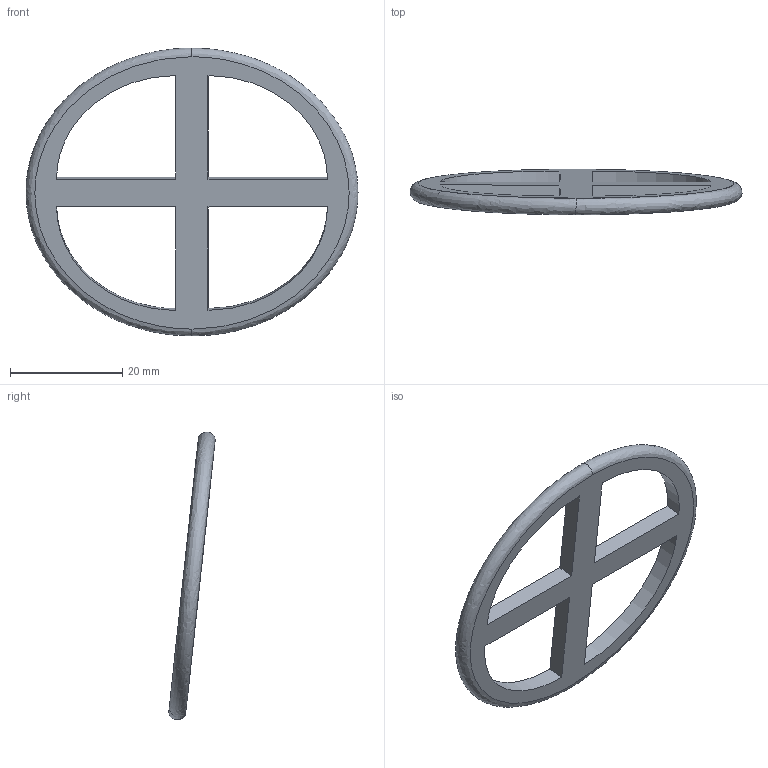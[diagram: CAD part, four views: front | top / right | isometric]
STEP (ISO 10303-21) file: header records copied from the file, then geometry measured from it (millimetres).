
FILE_DESCRIPTION(/* description */ (''),/* implementation_level */ '2;1');
FILE_NAME(/* name */ 'XS-NAR~3',/* time_stamp */ '2020-04-10T21:55:24+03:00',/* author */ (''),/* organization */ (''),/* preprocessor_version */ 'ST-DEVELOPER v16.5',/* originating_system */ '',/* authorisation */ '');
FILE_SCHEMA (('AUTOMOTIVE_DESIGN { 1 0 10303 214 3 1 1 }'));
Length unit declared in the file: millimetre
Products named in the file (1): Document
Bounding box: 59.15 x 8.23 x 51.3 mm (x, y, z)
Volume: 3307.3 mm3; surface area: 3465.5 mm2
Topology: 1 solids, 1 shells, 18 faces, 46 edges, 30 vertices
Faces by surface type: plane 10, bspline 8
Entity records: 1332 total; most frequent: CARTESIAN_POINT 1006, ORIENTED_EDGE 92, EDGE_CURVE 46, VERTEX_POINT 30, EDGE_LOOP 26, B_SPLINE_CURVE_WITH_KNOTS 24, ADVANCED_FACE 18, FACE_OUTER_BOUND 18
